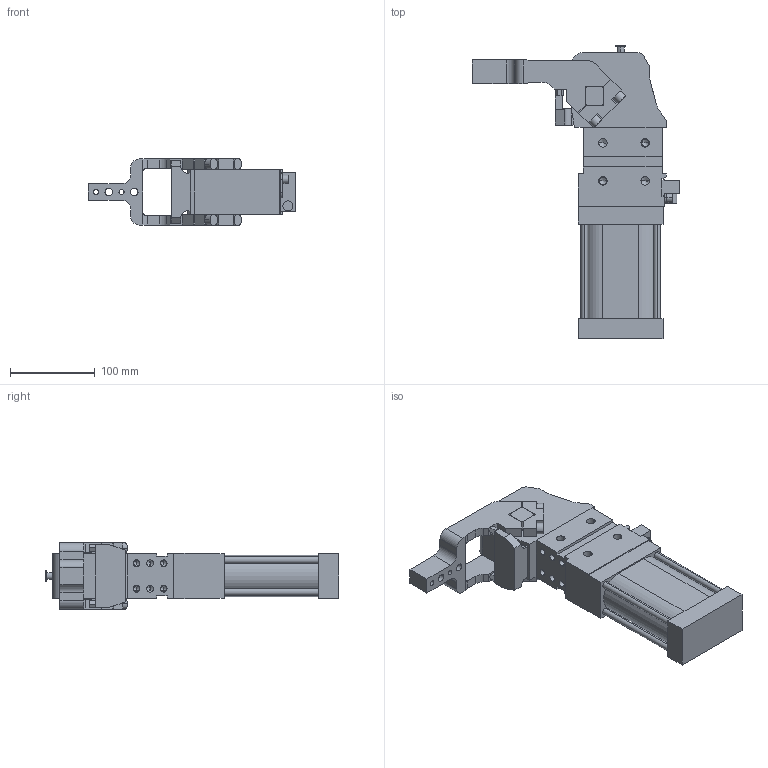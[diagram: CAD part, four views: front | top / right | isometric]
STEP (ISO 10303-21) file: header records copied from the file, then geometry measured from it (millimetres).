
FILE_DESCRIPTION (( 'STEP AP214' ), '1' );
FILE_NAME ('cpl63tv1ci1g_135.STEP', '2023-01-26T10:35:41', ( '' ), ( '' ), 'SwSTEP 2.0', 'SolidWorks 2022', '' );
FILE_SCHEMA (( 'AUTOMOTIVE_DESIGN' ));
Length unit declared in the file: millimetre
Products named in the file (4): blocchetto_VEP_0; leva_v1c_cpl63t; cpl63tv1ci1g_135; meccanica_cpl_63_tassello_esterno
Assembly tree (3 placements, depth 2):
  cpl63tv1ci1g_135
    meccanica_cpl_63_tassello_esterno
    blocchetto_VEP_0
    leva_v1c_cpl63t
Bounding box: 244.5 x 347 x 79 mm (x, y, z)
Volume: 1809911.4 mm3; surface area: 194728.4 mm2
Topology: 3 solids, 3 shells, 431 faces, 1136 edges, 705 vertices
Faces by surface type: plane 231, cylinder 150, cone 50
Entity records: 14562 total; most frequent: CARTESIAN_POINT 2328, DIRECTION 2286, ORIENTED_EDGE 2180, EDGE_CURVE 1090, AXIS2_PLACEMENT_3D 769, LINE 748, VECTOR 748, VERTEX_POINT 705
